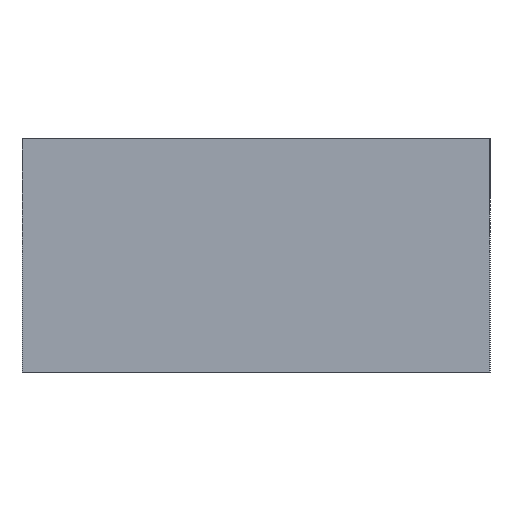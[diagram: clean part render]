
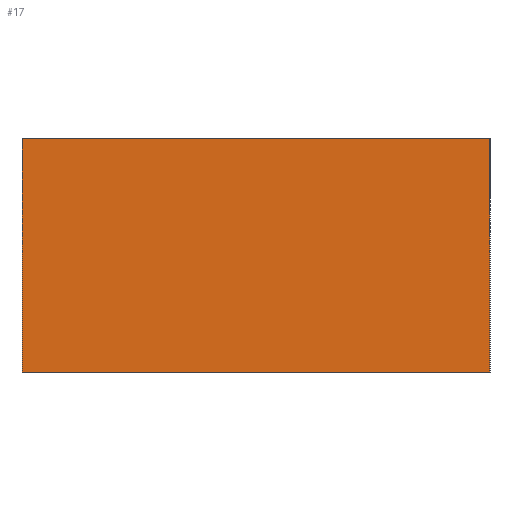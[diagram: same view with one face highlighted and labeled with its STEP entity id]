
A CAD part, left-side view. The second image highlights one B-rep face of the part: STEP entity #17.
In plain terms, the highlighted planar face has unit normal (-1, 0, 0).
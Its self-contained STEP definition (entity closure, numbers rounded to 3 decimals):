
#17 = ADVANCED_FACE('',(#18),#32,.F.);
#18 = FACE_BOUND('',#19,.F.);
#19 = EDGE_LOOP('',(#20,#55,#83,#111));
#20 = ORIENTED_EDGE('',*,*,#21,.F.);
#21 = EDGE_CURVE('',#22,#24,#26,.T.);
#22 = VERTEX_POINT('',#23);
#23 = CARTESIAN_POINT('',(0.,0.,
    0.));
#24 = VERTEX_POINT('',#25);
#25 = CARTESIAN_POINT('',(0.,0.,
    5.));
#26 = SURFACE_CURVE('',#27,(#31,#43),.PCURVE_S1.);
#27 = LINE('',#28,#29);
#28 = CARTESIAN_POINT('',(0.,0.,
    0.));
#29 = VECTOR('',#30,1.);
#30 = DIRECTION('',(0.,0.,1.));
#31 = PCURVE('',#32,#37);
#32 = PLANE('',#33);
#33 = AXIS2_PLACEMENT_3D('',#34,#35,#36);
#34 = CARTESIAN_POINT('',(0.,0.,
    0.));
#35 = DIRECTION('',(1.,0.,-0.));
#36 = DIRECTION('',(0.,0.,1.));
#37 = DEFINITIONAL_REPRESENTATION('',(#38),#42);
#38 = LINE('',#39,#40);
#39 = CARTESIAN_POINT('',(0.,0.));
#40 = VECTOR('',#41,1.);
#41 = DIRECTION('',(1.,0.));
#42 = ( GEOMETRIC_REPRESENTATION_CONTEXT(2) 
PARAMETRIC_REPRESENTATION_CONTEXT() REPRESENTATION_CONTEXT('2D SPACE',''
  ) );
#43 = PCURVE('',#44,#49);
#44 = PLANE('',#45);
#45 = AXIS2_PLACEMENT_3D('',#46,#47,#48);
#46 = CARTESIAN_POINT('',(0.,0.,
    0.));
#47 = DIRECTION('',(-0.,1.,0.));
#48 = DIRECTION('',(0.,0.,1.));
#49 = DEFINITIONAL_REPRESENTATION('',(#50),#54);
#50 = LINE('',#51,#52);
#51 = CARTESIAN_POINT('',(0.,0.));
#52 = VECTOR('',#53,1.);
#53 = DIRECTION('',(1.,0.));
#54 = ( GEOMETRIC_REPRESENTATION_CONTEXT(2) 
PARAMETRIC_REPRESENTATION_CONTEXT() REPRESENTATION_CONTEXT('2D SPACE',''
  ) );
#55 = ORIENTED_EDGE('',*,*,#56,.T.);
#56 = EDGE_CURVE('',#22,#57,#59,.T.);
#57 = VERTEX_POINT('',#58);
#58 = CARTESIAN_POINT('',(0.,10.,
    0.));
#59 = SURFACE_CURVE('',#60,(#64,#71),.PCURVE_S1.);
#60 = LINE('',#61,#62);
#61 = CARTESIAN_POINT('',(0.,0.,
    0.));
#62 = VECTOR('',#63,1.);
#63 = DIRECTION('',(-0.,1.,0.));
#64 = PCURVE('',#32,#65);
#65 = DEFINITIONAL_REPRESENTATION('',(#66),#70);
#66 = LINE('',#67,#68);
#67 = CARTESIAN_POINT('',(0.,0.));
#68 = VECTOR('',#69,1.);
#69 = DIRECTION('',(0.,-1.));
#70 = ( GEOMETRIC_REPRESENTATION_CONTEXT(2) 
PARAMETRIC_REPRESENTATION_CONTEXT() REPRESENTATION_CONTEXT('2D SPACE',''
  ) );
#71 = PCURVE('',#72,#77);
#72 = PLANE('',#73);
#73 = AXIS2_PLACEMENT_3D('',#74,#75,#76);
#74 = CARTESIAN_POINT('',(0.,0.,
    0.));
#75 = DIRECTION('',(0.,0.,1.));
#76 = DIRECTION('',(1.,0.,-0.));
#77 = DEFINITIONAL_REPRESENTATION('',(#78),#82);
#78 = LINE('',#79,#80);
#79 = CARTESIAN_POINT('',(0.,0.));
#80 = VECTOR('',#81,1.);
#81 = DIRECTION('',(0.,1.));
#82 = ( GEOMETRIC_REPRESENTATION_CONTEXT(2) 
PARAMETRIC_REPRESENTATION_CONTEXT() REPRESENTATION_CONTEXT('2D SPACE',''
  ) );
#83 = ORIENTED_EDGE('',*,*,#84,.T.);
#84 = EDGE_CURVE('',#57,#85,#87,.T.);
#85 = VERTEX_POINT('',#86);
#86 = CARTESIAN_POINT('',(0.,10.,5.));
#87 = SURFACE_CURVE('',#88,(#92,#99),.PCURVE_S1.);
#88 = LINE('',#89,#90);
#89 = CARTESIAN_POINT('',(0.,10.,
    0.));
#90 = VECTOR('',#91,1.);
#91 = DIRECTION('',(0.,0.,1.));
#92 = PCURVE('',#32,#93);
#93 = DEFINITIONAL_REPRESENTATION('',(#94),#98);
#94 = LINE('',#95,#96);
#95 = CARTESIAN_POINT('',(0.,-10.));
#96 = VECTOR('',#97,1.);
#97 = DIRECTION('',(1.,0.));
#98 = ( GEOMETRIC_REPRESENTATION_CONTEXT(2) 
PARAMETRIC_REPRESENTATION_CONTEXT() REPRESENTATION_CONTEXT('2D SPACE',''
  ) );
#99 = PCURVE('',#100,#105);
#100 = PLANE('',#101);
#101 = AXIS2_PLACEMENT_3D('',#102,#103,#104);
#102 = CARTESIAN_POINT('',(0.,10.,
    0.));
#103 = DIRECTION('',(-0.,1.,0.));
#104 = DIRECTION('',(0.,0.,1.));
#105 = DEFINITIONAL_REPRESENTATION('',(#106),#110);
#106 = LINE('',#107,#108);
#107 = CARTESIAN_POINT('',(0.,0.));
#108 = VECTOR('',#109,1.);
#109 = DIRECTION('',(1.,0.));
#110 = ( GEOMETRIC_REPRESENTATION_CONTEXT(2) 
PARAMETRIC_REPRESENTATION_CONTEXT() REPRESENTATION_CONTEXT('2D SPACE',''
  ) );
#111 = ORIENTED_EDGE('',*,*,#112,.F.);
#112 = EDGE_CURVE('',#24,#85,#113,.T.);
#113 = SURFACE_CURVE('',#114,(#118,#125),.PCURVE_S1.);
#114 = LINE('',#115,#116);
#115 = CARTESIAN_POINT('',(0.,0.,
    5.));
#116 = VECTOR('',#117,1.);
#117 = DIRECTION('',(-0.,1.,0.));
#118 = PCURVE('',#32,#119);
#119 = DEFINITIONAL_REPRESENTATION('',(#120),#124);
#120 = LINE('',#121,#122);
#121 = CARTESIAN_POINT('',(5.,0.));
#122 = VECTOR('',#123,1.);
#123 = DIRECTION('',(0.,-1.));
#124 = ( GEOMETRIC_REPRESENTATION_CONTEXT(2) 
PARAMETRIC_REPRESENTATION_CONTEXT() REPRESENTATION_CONTEXT('2D SPACE',''
  ) );
#125 = PCURVE('',#126,#131);
#126 = PLANE('',#127);
#127 = AXIS2_PLACEMENT_3D('',#128,#129,#130);
#128 = CARTESIAN_POINT('',(0.,0.,
    5.));
#129 = DIRECTION('',(0.,0.,1.));
#130 = DIRECTION('',(1.,0.,-0.));
#131 = DEFINITIONAL_REPRESENTATION('',(#132),#136);
#132 = LINE('',#133,#134);
#133 = CARTESIAN_POINT('',(0.,0.));
#134 = VECTOR('',#135,1.);
#135 = DIRECTION('',(0.,1.));
#136 = ( GEOMETRIC_REPRESENTATION_CONTEXT(2) 
PARAMETRIC_REPRESENTATION_CONTEXT() REPRESENTATION_CONTEXT('2D SPACE',''
  ) );
